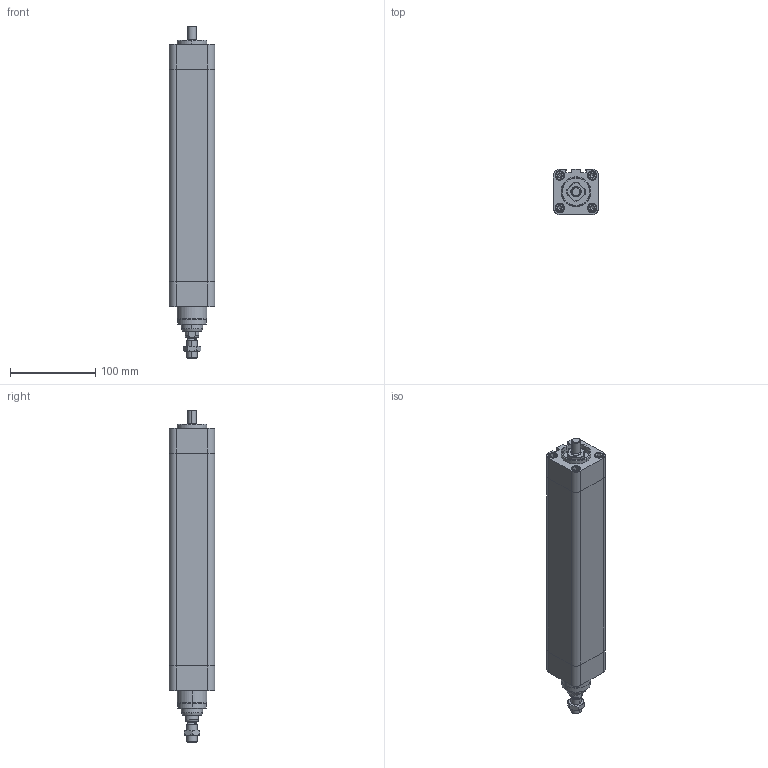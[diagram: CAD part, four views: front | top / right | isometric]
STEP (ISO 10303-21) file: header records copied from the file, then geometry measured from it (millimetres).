
FILE_DESCRIPTION (( 'STEP AP214' ), '1' );
FILE_NAME ('WACE-040-0160 (3D).STEP', '2019-06-29T06:35:20', ( '' ), ( '' ), 'SwSTEP 2.0', 'SolidWorks 2016', '' );
FILE_SCHEMA (( 'AUTOMOTIVE_DESIGN' ));
Length unit declared in the file: millimetre
Products named in the file (4): Group2^WACE-040-0160 (3D); Group3^WACE-040-0160 (3D); WACE-040-0160 (3D); Group1^WACE-040-0160 (3D)
Assembly tree (3 placements, depth 2):
  WACE-040-0160 (3D)
    Group1^WACE-040-0160 (3D)
    Group2^WACE-040-0160 (3D)
    Group3^WACE-040-0160 (3D)
Bounding box: 53 x 53 x 388.5 mm (x, y, z)
Volume: 737800.1 mm3; surface area: 165128.7 mm2
Topology: 16 solids, 16 shells, 658 faces, 1601 edges, 1030 vertices
Faces by surface type: plane 352, cylinder 156, bspline 83, cone 67
Entity records: 25103 total; most frequent: CARTESIAN_POINT 8264, ORIENTED_EDGE 3170, DIRECTION 2887, EDGE_CURVE 1585, VERTEX_POINT 1030, AXIS2_PLACEMENT_3D 981, VECTOR 925, LINE 925
